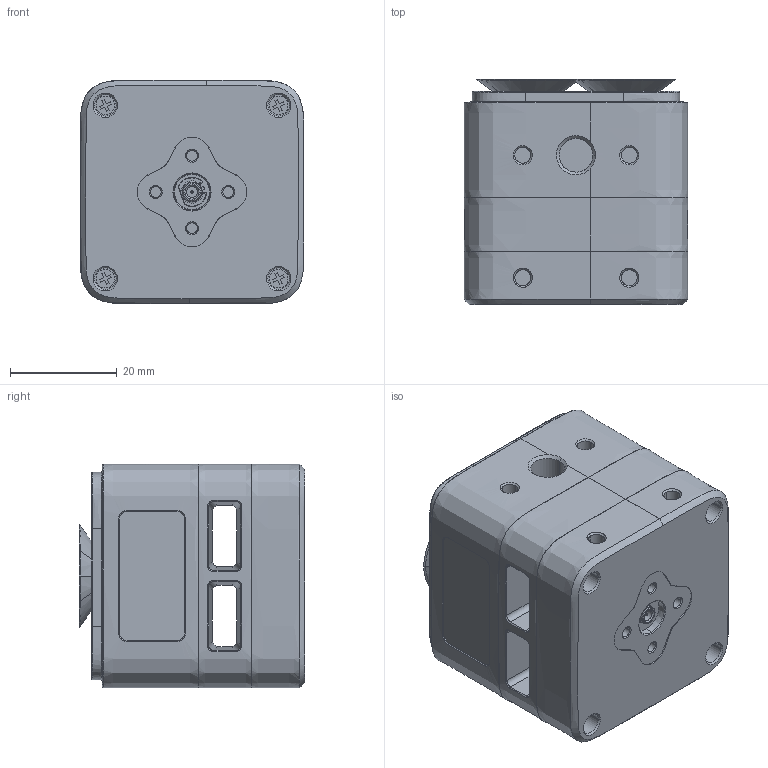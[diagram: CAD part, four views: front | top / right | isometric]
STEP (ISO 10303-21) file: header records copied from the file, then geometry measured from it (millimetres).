
FILE_DESCRIPTION((''),'2;1');
FILE_NAME('G305G','2025-12-15T17:54:33',('yuxingchen'),(''),'CREO PARAMETRIC BY PTC INC, 2025102','CREO PARAMETRIC BY PTC INC, 2025102','');
FILE_SCHEMA(('CONFIG_CONTROL_DESIGN','SHAPE_APPEARANCE_LAYERS_GROUPS'));
Products named in the file (1): G305G
Bounding box: 42 x 42.28 x 42 mm (x, y, z)
Surface area: 19731.4 mm2 (no closed solid volume)
Topology: 0 solids, 35 shells, 2201 faces, 5943 edges, 3754 vertices
Faces by surface type: plane 1361, cylinder 494, bspline 133, cone 130, torus 63, extrusion 12, sphere 8
Entity records: 114199 total; most frequent: CARTESIAN_POINT 27447, ORIENTED_EDGE 11717, DIRECTION 10918, PRESENTATION_STYLE_ASSIGNMENT 7934, STYLED_ITEM 5957, CURVE_STYLE 5939, EDGE_CURVE 5927, VECTOR 4240
